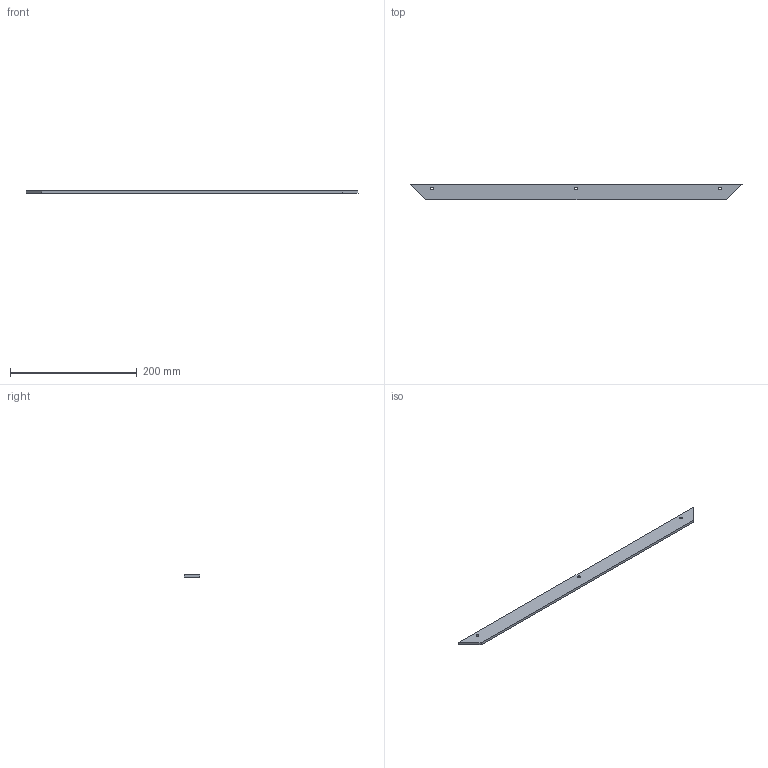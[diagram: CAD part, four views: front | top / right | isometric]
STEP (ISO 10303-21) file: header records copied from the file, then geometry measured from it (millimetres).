
FILE_DESCRIPTION (( 'STEP AP203' ), '1' );
FILE_NAME ('ORW-008.20.210.002 砑鳧罻.STEP', '2025-10-13T13:18:55', ( '燴僽樥' ), ( '' ), 'SwSTEP 2.0', 'SolidWorks 2025', '' );
FILE_SCHEMA (( 'CONFIG_CONTROL_DESIGN' ));
Length unit declared in the file: millimetre
Products named in the file (1): ORW-008.20.210.002 Планка
Bounding box: 524 x 25 x 4 mm (x, y, z)
Volume: 49709.1 mm3; surface area: 29299.1 mm2
Topology: 1 solids, 1 shells, 9 faces, 21 edges, 14 vertices
Faces by surface type: plane 6, cylinder 3
Full cylindrical faces by diameter (mm): 4.5 x3
Entity records: 333 total; most frequent: DIRECTION 44, CARTESIAN_POINT 42, ORIENTED_EDGE 36, EDGE_CURVE 18, EDGE_LOOP 18, AXIS2_PLACEMENT_3D 16, VERTEX_POINT 14, FACE_OUTER_BOUND 12
